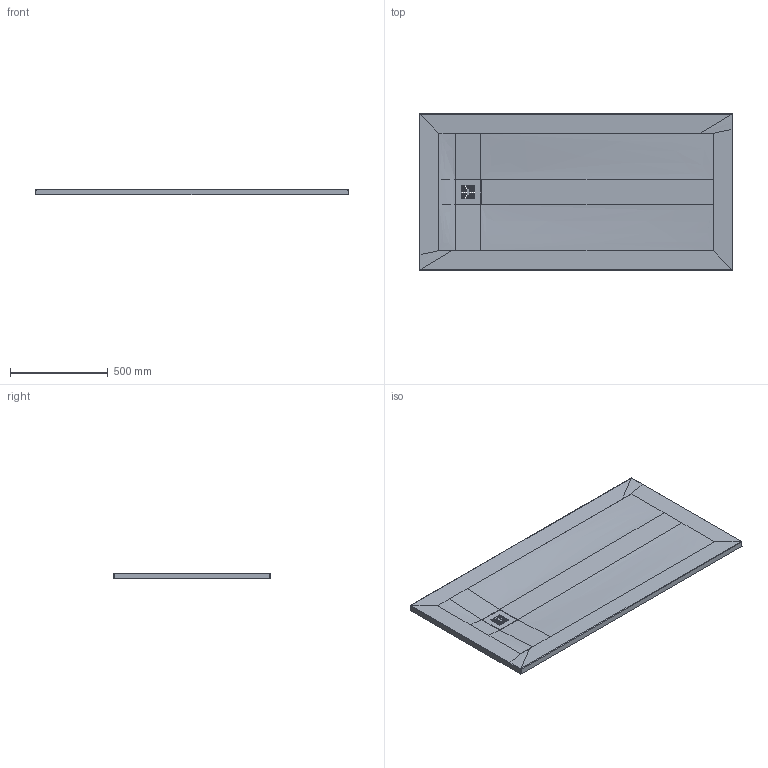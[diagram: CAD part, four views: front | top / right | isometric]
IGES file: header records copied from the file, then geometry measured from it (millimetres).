
Global section: file name: d:\users\matthias.isele\Desktop\planungsdaten\W&W\Sustano\720284\3D\720284.igs; native system: Rhinoceros ( Sep 13 2016 ); preprocessor: Trout Lake IGES 012 Sep 13 2016; date: 220210.075713; units: millimetre
Bounding box: 1600 x 800 x 30.02 mm (x, y, z)
Surface area: 1428656.8 mm2 (no closed solid volume)
Topology: 0 solids, 0 shells, 118 faces, 641 edges, 641 vertices
Faces by surface type: bspline 118
